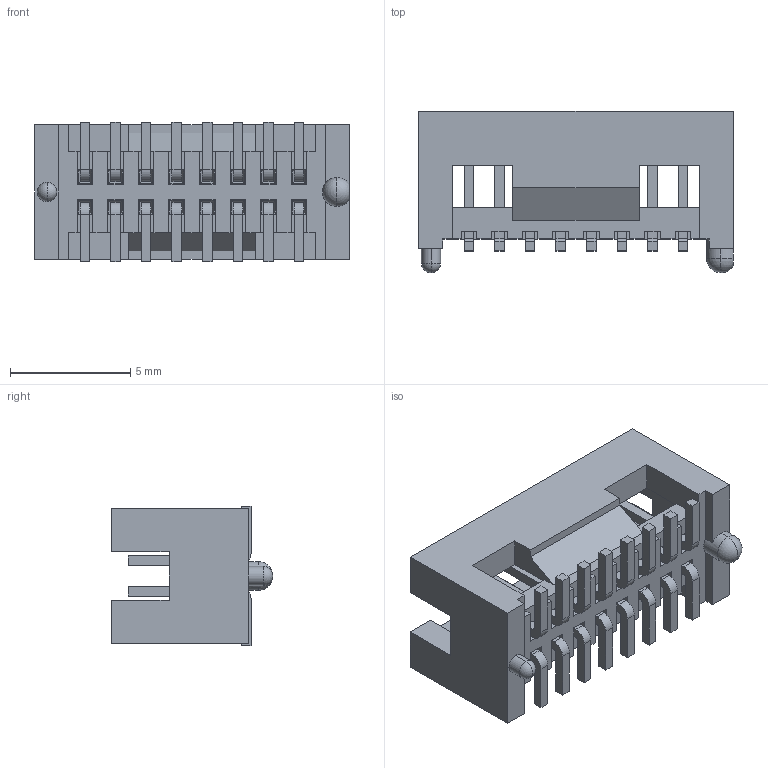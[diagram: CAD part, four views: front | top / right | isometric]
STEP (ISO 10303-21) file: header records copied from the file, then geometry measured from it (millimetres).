
FILE_DESCRIPTION (( 'STEP AP203' ), '1' );
FILE_NAME ('HC-JN127-2-8-S-5.7-XX (潠籟1.27 邧齬 泂え-HCTL).STEP', '2025-12-25T03:16:04', ( '' ), ( '' ), 'SwSTEP 2.0', 'SolidWorks 2025', '' );
FILE_SCHEMA (( 'CONFIG_CONTROL_DESIGN' ));
Length unit declared in the file: millimetre
Products named in the file (1): HC-JN127-2-8-S-5.7-XX (简牛1.27 双排 贴片-HCTL)
Bounding box: 13.06 x 6.7 x 5.8 mm (x, y, z)
Volume: 200 mm3; surface area: 621.7 mm2
Topology: 1 solids, 1 shells, 406 faces, 1077 edges, 694 vertices
Faces by surface type: plane 365, cylinder 37, sphere 4
Entity records: 12351 total; most frequent: CARTESIAN_POINT 2168, ORIENTED_EDGE 2140, DIRECTION 1964, EDGE_CURVE 1070, LINE 990, VECTOR 990, VERTEX_POINT 691, AXIS2_PLACEMENT_3D 487
